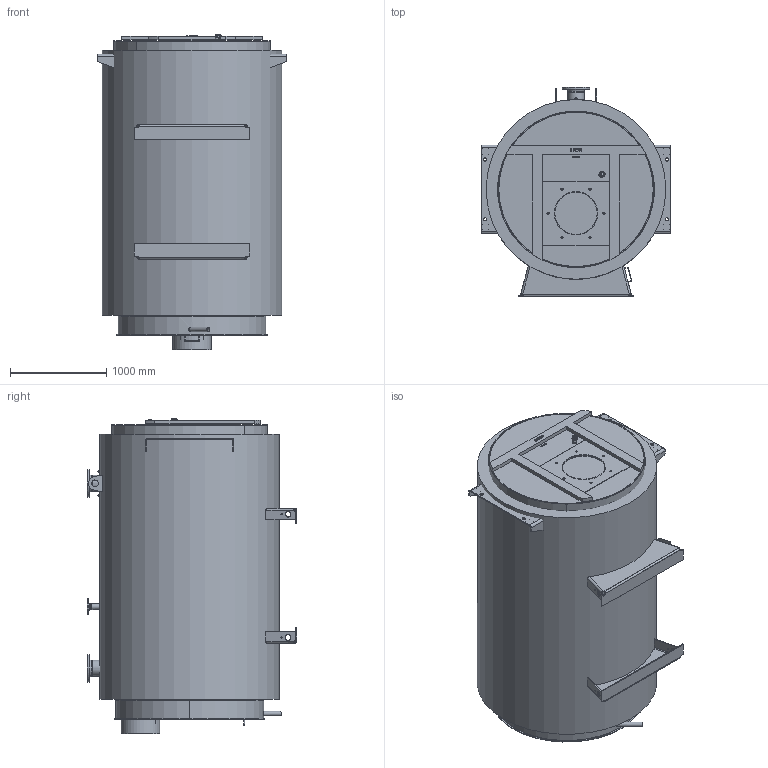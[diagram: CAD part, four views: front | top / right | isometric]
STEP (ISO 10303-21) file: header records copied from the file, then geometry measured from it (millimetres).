
FILE_DESCRIPTION(('TFLEX Exchange Step'),'2;1');
FILE_NAME('M22A005_7926846_H002.stp', '2024-07-31T15:52:41+03:00',('kort'),('Unknown organisation'),'TFLEX Exchange 2024.2','T-FLEX CAD','Unknown authorisation');
FILE_SCHEMA( ('AUTOMOTIVE_DESIGN { 1 0 10303 214 1 1 1 1 }') );
Length unit declared in the file: millimetre
Products named in the file (1): Nodes
Bounding box: 1965 x 2175 x 3275.64 mm (x, y, z)
Volume: 8342152795.4 mm3; surface area: 79866800.2 mm2
Topology: 126 solids, 126 shells, 1394 faces, 3416 edges, 2305 vertices
Faces by surface type: plane 695, cylinder 480, bspline 119, cone 73, torus 21, sphere 6
Full cylindrical faces by diameter (mm): 1 x16, 2.2 x4, 3.2 x4, 3.3 x4, 4 x4, 6.5 x4, 10 x12, 11.45 x1, 12 x24, 13 x4, 14 x4, 14.63 x6, 16 x4, 18 x4, 22 x28, 24 x4, 32 x4, 35 x3, 40 x2, 41.1 x1, 41.9 x1, 44.8 x1, 45 x5, 47.8 x1, 48.3 x2, 50 x1, 54.5 x1, 60 x5, 60.3 x1, 70 x2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
Entity records: 55774 total; most frequent: CARTESIAN_POINT 21987, DIRECTION 6841, ORIENTED_EDGE 6788, EDGE_CURVE 3394, AXIS2_PLACEMENT_3D 2540, VERTEX_POINT 2305, VECTOR 1761, LINE 1761
